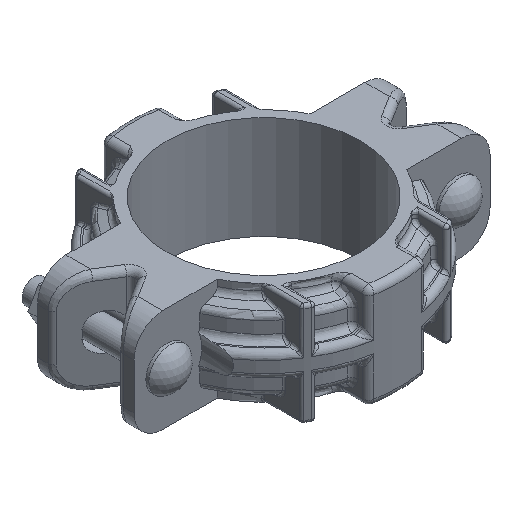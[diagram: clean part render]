
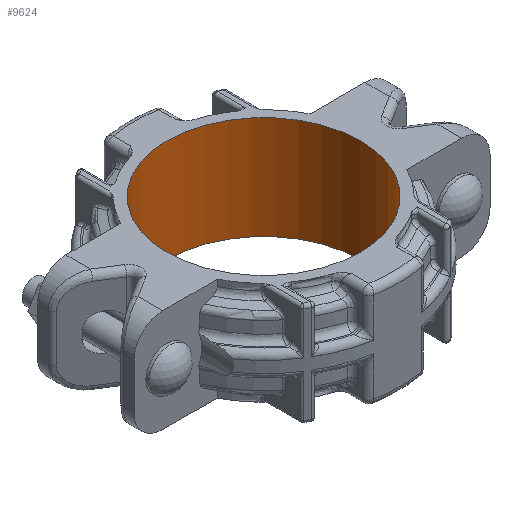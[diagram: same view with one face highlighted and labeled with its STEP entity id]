
A CAD part, isometric view. The second image highlights one B-rep face of the part: STEP entity #9624.
In plain terms, the highlighted cylindrical face has radius 50.8 mm (diameter 101.6 mm), a full revolution.
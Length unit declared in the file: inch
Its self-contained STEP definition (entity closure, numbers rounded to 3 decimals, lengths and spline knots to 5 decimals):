
#945=CYLINDRICAL_SURFACE('',#10635,2.);
#1528=FACE_OUTER_BOUND('',#2111,.T.);
#2111=EDGE_LOOP('',(#8269,#8270,#8271,#8272,#8273,#8274));
#2526=LINE('',#22845,#2929);
#2929=VECTOR('',#13031,2.);
#2999=CIRCLE('',#9771,2.);
#3000=CIRCLE('',#9772,2.);
#3032=CIRCLE('',#9825,2.);
#3033=CIRCLE('',#9826,2.);
#3637=VERTEX_POINT('',#13710);
#3638=VERTEX_POINT('',#13711);
#3712=VERTEX_POINT('',#14137);
#3713=VERTEX_POINT('',#14138);
#4477=EDGE_CURVE('',#3637,#3638,#2999,.T.);
#4478=EDGE_CURVE('',#3638,#3637,#3000,.T.);
#4572=EDGE_CURVE('',#3712,#3713,#3032,.T.);
#4573=EDGE_CURVE('',#3713,#3712,#3033,.T.);
#5652=EDGE_CURVE('',#3713,#3638,#2526,.T.);
#8269=ORIENTED_EDGE('',*,*,#4572,.T.);
#8270=ORIENTED_EDGE('',*,*,#5652,.T.);
#8271=ORIENTED_EDGE('',*,*,#4477,.F.);
#8272=ORIENTED_EDGE('',*,*,#4478,.F.);
#8273=ORIENTED_EDGE('',*,*,#5652,.F.);
#8274=ORIENTED_EDGE('',*,*,#4573,.T.);
#9624=ADVANCED_FACE('',(#1528),#945,.F.);
#9771=AXIS2_PLACEMENT_3D('',#13712,#10997,#10998);
#9772=AXIS2_PLACEMENT_3D('',#13713,#10999,#11000);
#9825=AXIS2_PLACEMENT_3D('',#14139,#11143,#11144);
#9826=AXIS2_PLACEMENT_3D('',#14140,#11145,#11146);
#10635=AXIS2_PLACEMENT_3D('',#22844,#13029,#13030);
#10997=DIRECTION('center_axis',(0.,0.,-1.));
#10998=DIRECTION('ref_axis',(1.,0.,0.));
#10999=DIRECTION('center_axis',(0.,0.,-1.));
#11000=DIRECTION('ref_axis',(1.,0.,0.));
#11143=DIRECTION('center_axis',(0.,0.,-1.));
#11144=DIRECTION('ref_axis',(-1.,0.,0.));
#11145=DIRECTION('center_axis',(0.,0.,-1.));
#11146=DIRECTION('ref_axis',(-1.,0.,0.));
#13029=DIRECTION('center_axis',(0.,0.,-1.));
#13030=DIRECTION('ref_axis',(0.,-1.,0.));
#13031=DIRECTION('',(0.,0.,1.));
#13710=CARTESIAN_POINT('',(1.73205,-1.,1.065));
#13711=CARTESIAN_POINT('',(0.,2.,1.065));
#13712=CARTESIAN_POINT('Origin',(0.,0.,1.065));
#13713=CARTESIAN_POINT('Origin',(0.,0.,1.065));
#14137=CARTESIAN_POINT('',(-2.,0.,-1.065));
#14138=CARTESIAN_POINT('',(0.,2.,-1.065));
#14139=CARTESIAN_POINT('Origin',(0.,0.,-1.065));
#14140=CARTESIAN_POINT('Origin',(0.,0.,-1.065));
#22844=CARTESIAN_POINT('Origin',(0.,0.,0.));
#22845=CARTESIAN_POINT('',(0.,2.,0.));
